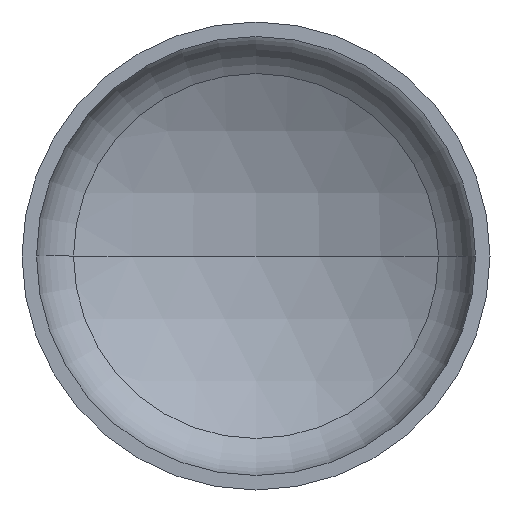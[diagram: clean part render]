
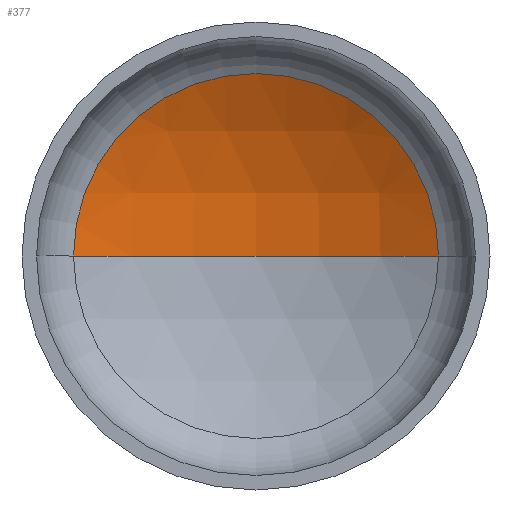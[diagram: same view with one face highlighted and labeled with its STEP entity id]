
A CAD part, front view. The second image highlights one B-rep face of the part: STEP entity #377.
In plain terms, the highlighted spherical face has radius 284 mm.
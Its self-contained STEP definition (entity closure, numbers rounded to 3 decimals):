
#1 = CARTESIAN_POINT ( 'NONE',  ( 0., 88., 0. ) ) ;
#5 = CARTESIAN_POINT ( 'NONE',  ( 0., -159.854, 0. ) ) ;
#18 = CARTESIAN_POINT ( 'NONE',  ( 138.652, 88., 0. ) ) ;
#39 = ORIENTED_EDGE ( 'NONE', *, *, #153, .T. ) ;
#53 = DIRECTION ( 'NONE',  ( 0., 0., -1. ) ) ;
#58 = AXIS2_PLACEMENT_3D ( 'NONE', #5, #134, #61 ) ;
#59 = VERTEX_POINT ( 'NONE', #18 ) ;
#60 = AXIS2_PLACEMENT_3D ( 'NONE', #62, #53, #104 ) ;
#61 = DIRECTION ( 'NONE',  ( 1., 0., 0. ) ) ;
#62 = CARTESIAN_POINT ( 'NONE',  ( 0., -159.854, 0. ) ) ;
#63 = AXIS2_PLACEMENT_3D ( 'NONE', #1, #77, #169 ) ;
#77 = DIRECTION ( 'NONE',  ( 0., -1., 0. ) ) ;
#86 = VERTEX_POINT ( 'NONE', #226 ) ;
#104 = DIRECTION ( 'NONE',  ( -1., 0., 0. ) ) ;
#115 = EDGE_LOOP ( 'NONE', ( #182, #39, #278 ) ) ;
#128 = CARTESIAN_POINT ( 'NONE',  ( 0., 124.146, 0. ) ) ;
#134 = DIRECTION ( 'NONE',  ( 0., 0., 1. ) ) ;
#150 = EDGE_CURVE ( 'NONE', #59, #86, #312, .T. ) ;
#153 = EDGE_CURVE ( 'NONE', #171, #59, #366, .T. ) ;
#158 = EDGE_CURVE ( 'NONE', #171, #86, #304, .T. ) ;
#169 = DIRECTION ( 'NONE',  ( 1., 0., 0. ) ) ;
#171 = VERTEX_POINT ( 'NONE', #128 ) ;
#182 = ORIENTED_EDGE ( 'NONE', *, *, #158, .F. ) ;
#226 = CARTESIAN_POINT ( 'NONE',  ( -138.652, 88., 0. ) ) ;
#265 = FACE_OUTER_BOUND ( 'NONE', #115, .T. ) ;
#278 = ORIENTED_EDGE ( 'NONE', *, *, #150, .T. ) ;
#291 = CARTESIAN_POINT ( 'NONE',  ( 0., -159.854, 0. ) ) ;
#304 = CIRCLE ( 'NONE', #58, 284. ) ;
#309 = AXIS2_PLACEMENT_3D ( 'NONE', #291, #354, #356 ) ;
#312 = CIRCLE ( 'NONE', #63, 138.652 ) ;
#354 = DIRECTION ( 'NONE',  ( 0., 0., -1. ) ) ;
#356 = DIRECTION ( 'NONE',  ( -1., 0., 0. ) ) ;
#366 = CIRCLE ( 'NONE', #60, 284. ) ;
#375 = SPHERICAL_SURFACE ( 'NONE', #309, 284. ) ;
#377 = ADVANCED_FACE ( 'NONE', ( #265 ), #375, .F. ) ;
